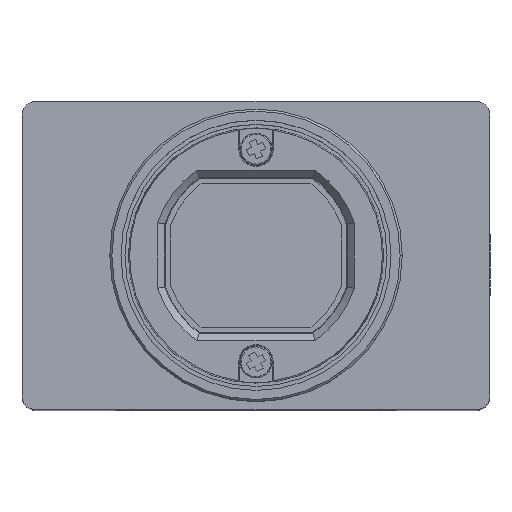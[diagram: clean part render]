
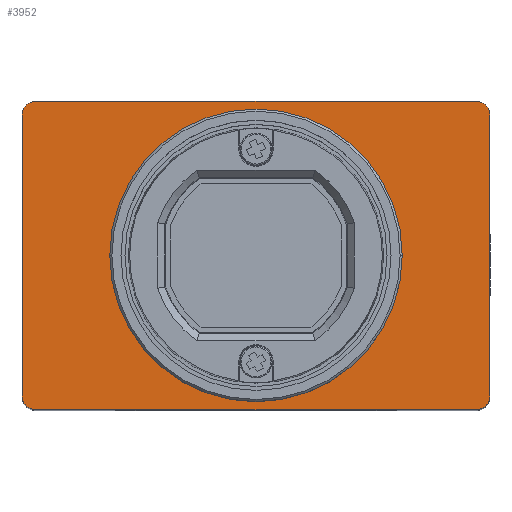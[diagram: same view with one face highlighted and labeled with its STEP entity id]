
A CAD part, top view. The second image highlights one B-rep face of the part: STEP entity #3952.
In plain terms, the highlighted planar face has unit normal (0, 0, 1).
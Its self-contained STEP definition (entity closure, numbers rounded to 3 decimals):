
#36 = AXIS2_PLACEMENT_3D ( 'NONE', #7904, #7851, #7849 ) ;
#393 = CARTESIAN_POINT ( 'NONE',  ( -20.7, 14.5, 0. ) ) ;
#487 = CIRCLE ( 'NONE', #3062, 1.3 ) ;
#789 = CIRCLE ( 'NONE', #9455, 13.75 ) ;
#801 = LINE ( 'NONE', #10868, #5746 ) ;
#828 = DIRECTION ( 'NONE',  ( 0., 0., 1. ) ) ;
#1015 = CARTESIAN_POINT ( 'NONE',  ( -22., 13.2, 0. ) ) ;
#1072 = DIRECTION ( 'NONE',  ( -1., 0., 0. ) ) ;
#1147 = ORIENTED_EDGE ( 'NONE', *, *, #12765, .T. ) ;
#1286 = DIRECTION ( 'NONE',  ( -1., 0., 0. ) ) ;
#1558 = EDGE_CURVE ( 'NONE', #4165, #4813, #2624, .T. ) ;
#1914 = ORIENTED_EDGE ( 'NONE', *, *, #9272, .F. ) ;
#1938 = EDGE_CURVE ( 'NONE', #5500, #3476, #10180, .T. ) ;
#1995 = DIRECTION ( 'NONE',  ( -1., 0., 0. ) ) ;
#2036 = CARTESIAN_POINT ( 'NONE',  ( 0., 0., 0. ) ) ;
#2089 = DIRECTION ( 'NONE',  ( 0., 0., 1. ) ) ;
#2356 = DIRECTION ( 'NONE',  ( 1., 0., 0. ) ) ;
#2442 = CARTESIAN_POINT ( 'NONE',  ( -20.7, -14.5, 0. ) ) ;
#2624 = LINE ( 'NONE', #2442, #13559 ) ;
#2753 = DIRECTION ( 'NONE',  ( 0., 0., 1. ) ) ;
#2801 = ORIENTED_EDGE ( 'NONE', *, *, #5121, .T. ) ;
#2898 = DIRECTION ( 'NONE',  ( 0., 0., 1. ) ) ;
#2938 = DIRECTION ( 'NONE',  ( -1., 0., 0. ) ) ;
#3062 = AXIS2_PLACEMENT_3D ( 'NONE', #5347, #2898, #1286 ) ;
#3197 = DIRECTION ( 'NONE',  ( 0., 0., -1. ) ) ;
#3277 = CARTESIAN_POINT ( 'NONE',  ( 20.7, -14.5, 0. ) ) ;
#3341 = EDGE_CURVE ( 'NONE', #3476, #4165, #12881, .T. ) ;
#3476 = VERTEX_POINT ( 'NONE', #4184 ) ;
#3487 = CARTESIAN_POINT ( 'NONE',  ( -20.7, 13.2, 0. ) ) ;
#3870 = CARTESIAN_POINT ( 'NONE',  ( -20.7, -14.5, 0. ) ) ;
#3952 = ADVANCED_FACE ( 'NONE', ( #4460, #12868 ), #9655, .F. ) ;
#3983 = DIRECTION ( 'NONE',  ( -1., 0., 0. ) ) ;
#4029 = CARTESIAN_POINT ( 'NONE',  ( 0., 0., 0. ) ) ;
#4165 = VERTEX_POINT ( 'NONE', #3870 ) ;
#4184 = CARTESIAN_POINT ( 'NONE',  ( -22., -13.2, 0. ) ) ;
#4373 = ORIENTED_EDGE ( 'NONE', *, *, #1558, .T. ) ;
#4460 = FACE_OUTER_BOUND ( 'NONE', #6893, .T. ) ;
#4713 = LINE ( 'NONE', #12687, #10274 ) ;
#4813 = VERTEX_POINT ( 'NONE', #3277 ) ;
#5007 = VERTEX_POINT ( 'NONE', #9536 ) ;
#5035 = DIRECTION ( 'NONE',  ( -1., 0., 0. ) ) ;
#5121 = EDGE_CURVE ( 'NONE', #12922, #9045, #4713, .T. ) ;
#5347 = CARTESIAN_POINT ( 'NONE',  ( 20.7, 13.2, 0. ) ) ;
#5418 = AXIS2_PLACEMENT_3D ( 'NONE', #6834, #6807, #6794 ) ;
#5441 = AXIS2_PLACEMENT_3D ( 'NONE', #9220, #828, #2938 ) ;
#5500 = VERTEX_POINT ( 'NONE', #1015 ) ;
#5746 = VECTOR ( 'NONE', #13702, 1000. ) ;
#5868 = DIRECTION ( 'NONE',  ( 0., -1., 0. ) ) ;
#5885 = CARTESIAN_POINT ( 'NONE',  ( -22., -13.2, 0. ) ) ;
#6129 = CIRCLE ( 'NONE', #5418, 1.3 ) ;
#6794 = DIRECTION ( 'NONE',  ( 1., 0., 0. ) ) ;
#6807 = DIRECTION ( 'NONE',  ( 0., 0., 1. ) ) ;
#6834 = CARTESIAN_POINT ( 'NONE',  ( 20.7, -13.2, 0. ) ) ;
#6852 = ORIENTED_EDGE ( 'NONE', *, *, #8014, .T. ) ;
#6893 = EDGE_LOOP ( 'NONE', ( #1147, #13636, #7711, #4373, #12869, #8516, #6852, #2801 ) ) ;
#7601 = VERTEX_POINT ( 'NONE', #11032 ) ;
#7711 = ORIENTED_EDGE ( 'NONE', *, *, #3341, .T. ) ;
#7739 = VECTOR ( 'NONE', #5868, 1000. ) ;
#7849 = DIRECTION ( 'NONE',  ( -1., 0., 0. ) ) ;
#7851 = DIRECTION ( 'NONE',  ( 0., 0., 1. ) ) ;
#7904 = CARTESIAN_POINT ( 'NONE',  ( -20.7, -13.2, 0. ) ) ;
#8001 = CARTESIAN_POINT ( 'NONE',  ( 20.7, 14.5, 0. ) ) ;
#8014 = EDGE_CURVE ( 'NONE', #7601, #12922, #487, .T. ) ;
#8345 = AXIS2_PLACEMENT_3D ( 'NONE', #4029, #2753, #3983 ) ;
#8516 = ORIENTED_EDGE ( 'NONE', *, *, #9525, .T. ) ;
#9045 = VERTEX_POINT ( 'NONE', #393 ) ;
#9220 = CARTESIAN_POINT ( 'NONE',  ( -20.7, 13.2, 0. ) ) ;
#9272 = EDGE_CURVE ( 'NONE', #5007, #13046, #12844, .T. ) ;
#9302 = ORIENTED_EDGE ( 'NONE', *, *, #9839, .F. ) ;
#9455 = AXIS2_PLACEMENT_3D ( 'NONE', #2036, #2089, #1995 ) ;
#9525 = EDGE_CURVE ( 'NONE', #13161, #7601, #801, .T. ) ;
#9536 = CARTESIAN_POINT ( 'NONE',  ( 13.75, 0., 0. ) ) ;
#9655 = PLANE ( 'NONE',  #11004 ) ;
#9839 = EDGE_CURVE ( 'NONE', #13046, #5007, #789, .T. ) ;
#10180 = LINE ( 'NONE', #5885, #7739 ) ;
#10274 = VECTOR ( 'NONE', #1072, 1000. ) ;
#10514 = CIRCLE ( 'NONE', #5441, 1.3 ) ;
#10868 = CARTESIAN_POINT ( 'NONE',  ( 22., -13.2, 0. ) ) ;
#11004 = AXIS2_PLACEMENT_3D ( 'NONE', #3487, #3197, #5035 ) ;
#11032 = CARTESIAN_POINT ( 'NONE',  ( 22., 13.2, 0. ) ) ;
#11861 = EDGE_CURVE ( 'NONE', #4813, #13161, #6129, .T. ) ;
#12114 = EDGE_LOOP ( 'NONE', ( #9302, #1914 ) ) ;
#12285 = CARTESIAN_POINT ( 'NONE',  ( -13.75, 0., 0. ) ) ;
#12687 = CARTESIAN_POINT ( 'NONE',  ( -20.7, 14.5, 0. ) ) ;
#12765 = EDGE_CURVE ( 'NONE', #9045, #5500, #10514, .T. ) ;
#12844 = CIRCLE ( 'NONE', #8345, 13.75 ) ;
#12868 = FACE_BOUND ( 'NONE', #12114, .T. ) ;
#12869 = ORIENTED_EDGE ( 'NONE', *, *, #11861, .T. ) ;
#12881 = CIRCLE ( 'NONE', #36, 1.3 ) ;
#12922 = VERTEX_POINT ( 'NONE', #8001 ) ;
#13046 = VERTEX_POINT ( 'NONE', #12285 ) ;
#13161 = VERTEX_POINT ( 'NONE', #13628 ) ;
#13559 = VECTOR ( 'NONE', #2356, 1000. ) ;
#13628 = CARTESIAN_POINT ( 'NONE',  ( 22., -13.2, 0. ) ) ;
#13636 = ORIENTED_EDGE ( 'NONE', *, *, #1938, .T. ) ;
#13702 = DIRECTION ( 'NONE',  ( 0., 1., 0. ) ) ;
